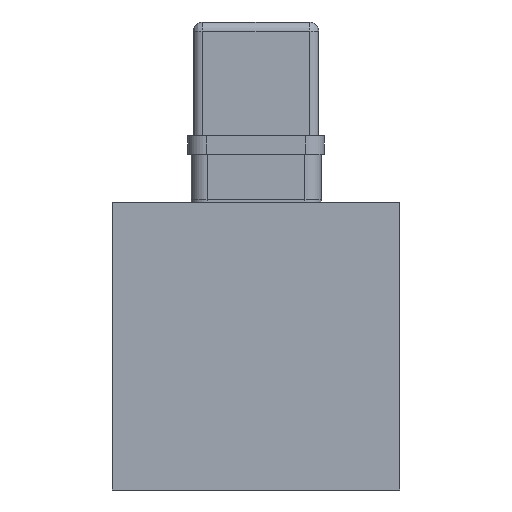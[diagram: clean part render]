
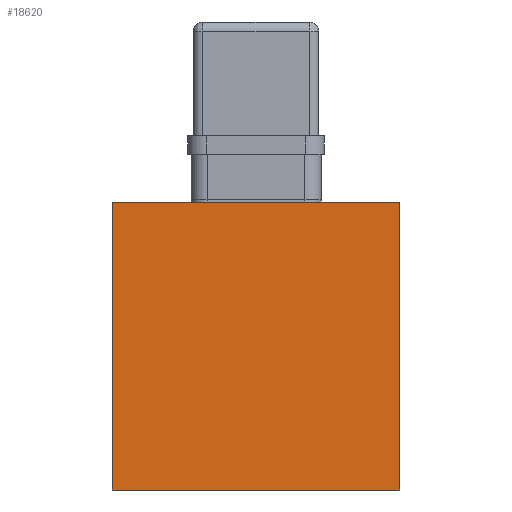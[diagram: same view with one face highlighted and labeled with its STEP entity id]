
A CAD part, left-side view. The second image highlights one B-rep face of the part: STEP entity #18620.
In plain terms, the highlighted planar face has unit normal (-1, 0, 0).
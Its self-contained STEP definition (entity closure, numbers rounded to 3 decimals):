
#105 = CARTESIAN_POINT ( 'NONE',  ( 0., -31., 31. ) ) ;
#167 = EDGE_CURVE ( 'NONE', #8158, #18233, #3610, .T. ) ;
#1161 = ORIENTED_EDGE ( 'NONE', *, *, #24634, .F. ) ;
#1868 = ORIENTED_EDGE ( 'NONE', *, *, #25453, .F. ) ;
#3610 = LINE ( 'NONE', #14433, #26995 ) ;
#4190 = VECTOR ( 'NONE', #11706, 1000. ) ;
#6270 = LINE ( 'NONE', #105, #23619 ) ;
#7010 = ORIENTED_EDGE ( 'NONE', *, *, #23562, .F. ) ;
#7199 = PLANE ( 'NONE',  #27935 ) ;
#8158 = VERTEX_POINT ( 'NONE', #14394 ) ;
#9694 = CARTESIAN_POINT ( 'NONE',  ( 0., -31., 31. ) ) ;
#11653 = VERTEX_POINT ( 'NONE', #24753 ) ;
#11706 = DIRECTION ( 'NONE',  ( 0., -1., 0. ) ) ;
#11876 = DIRECTION ( 'NONE',  ( -1., 0., 0. ) ) ;
#13677 = DIRECTION ( 'NONE',  ( 0., 0., -1. ) ) ;
#14094 = CARTESIAN_POINT ( 'NONE',  ( 0., -31., -31. ) ) ;
#14394 = CARTESIAN_POINT ( 'NONE',  ( 0., 31., -31. ) ) ;
#14433 = CARTESIAN_POINT ( 'NONE',  ( 0., 31., 31. ) ) ;
#14562 = EDGE_LOOP ( 'NONE', ( #1161, #1868, #7010, #29185 ) ) ;
#16503 = LINE ( 'NONE', #14094, #28541 ) ;
#18233 = VERTEX_POINT ( 'NONE', #21334 ) ;
#18504 = DIRECTION ( 'NONE',  ( 0., 1., 0. ) ) ;
#18620 = ADVANCED_FACE ( 'NONE', ( #19438 ), #7199, .T. ) ;
#19438 = FACE_OUTER_BOUND ( 'NONE', #14562, .T. ) ;
#20857 = CARTESIAN_POINT ( 'NONE',  ( 0., -31., 31. ) ) ;
#21334 = CARTESIAN_POINT ( 'NONE',  ( 0., 31., 31. ) ) ;
#21517 = LINE ( 'NONE', #9694, #4190 ) ;
#23104 = VERTEX_POINT ( 'NONE', #20857 ) ;
#23562 = EDGE_CURVE ( 'NONE', #18233, #23104, #21517, .T. ) ;
#23619 = VECTOR ( 'NONE', #13677, 1000. ) ;
#24634 = EDGE_CURVE ( 'NONE', #11653, #8158, #16503, .T. ) ;
#24753 = CARTESIAN_POINT ( 'NONE',  ( 0., -31., -31. ) ) ;
#25403 = CARTESIAN_POINT ( 'NONE',  ( 0., 31., -31. ) ) ;
#25453 = EDGE_CURVE ( 'NONE', #23104, #11653, #6270, .T. ) ;
#26571 = DIRECTION ( 'NONE',  ( 0., 0., 1. ) ) ;
#26995 = VECTOR ( 'NONE', #26571, 1000. ) ;
#27679 = DIRECTION ( 'NONE',  ( 0., 0., 1. ) ) ;
#27935 = AXIS2_PLACEMENT_3D ( 'NONE', #25403, #11876, #27679 ) ;
#28541 = VECTOR ( 'NONE', #18504, 1000. ) ;
#29185 = ORIENTED_EDGE ( 'NONE', *, *, #167, .F. ) ;
